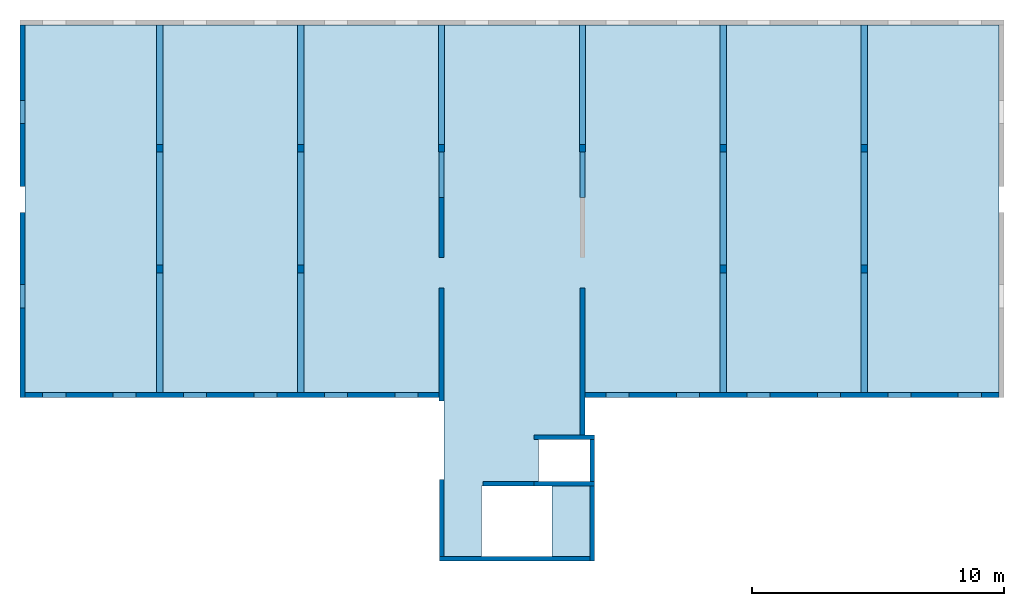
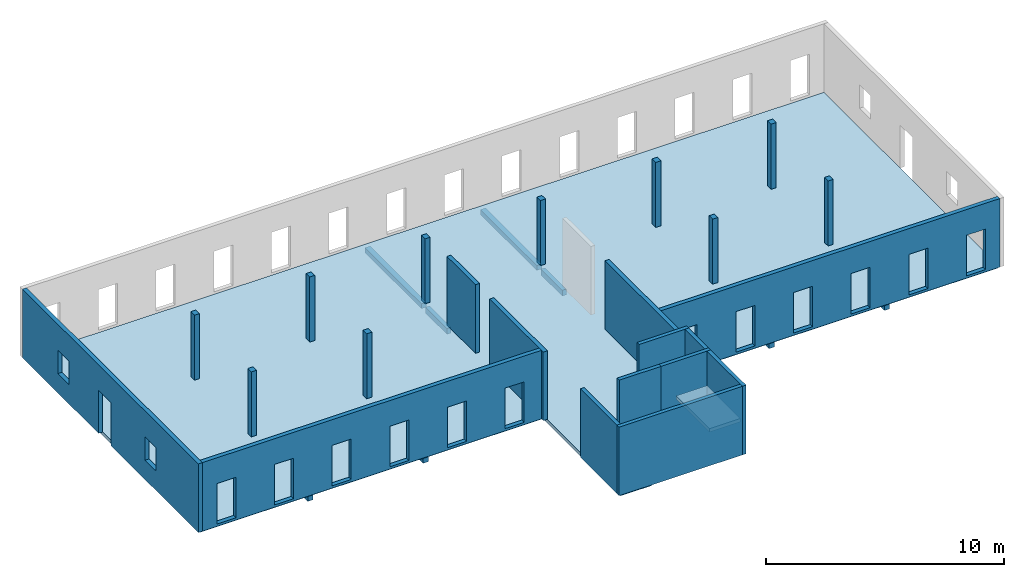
# One storey, part 1 of 2: 13 walls, 10 columns, 8 beams, 2 slabs, 15 openings.
"""IFC2X3 building model written with IfcOpenShell, lengths in metres."""

import ifcopenshell
import ifcopenshell.guid

model = None  # the IFC model being written
_history = None  # IfcOwnerHistory: only IFC2X3 demands one
_inside = {}  # id of a spatial element -> (the spatial element, [elements in it])
_under = {}  # id of a project, library or spatial element -> (it, [spatial elements below it])
_declared = {}  # id of a project -> (the project, [libraries it declares])
_typed = {}  # id of a type object -> (the type object, [elements of that type])
_made_of = {}  # id of a material, layer set ... -> (it, [elements and type objects made of it])


def new_model(schema):
    """Start an empty IFC model of exactly this schema.

    Asked for "IFC4X3", IfcOpenShell would pick the latest addendum, in which some entities
    have other attributes; the version numbers below select the first issue.
    IFC2X3 requires an IfcOwnerHistory on every rooted entity: one is made here for all.
    """
    global model, _history
    if schema == "IFC4X3":
        model = ifcopenshell.file(schema_version=(4, 3, 0, 0))
    else:
        model = ifcopenshell.file(schema=schema)
    _inside.clear()
    _under.clear()
    _declared.clear()
    _typed.clear()
    _made_of.clear()
    _history = None
    if model.schema == "IFC2X3":
        org = make("IfcOrganization", Name="unknown")
        user = make(
            "IfcPersonAndOrganization",
            ThePerson=make("IfcPerson", FamilyName="unknown"),
            TheOrganization=org,
        )
        app = make(
            "IfcApplication",
            ApplicationDeveloper=org,
            Version="unknown",
            ApplicationFullName="unknown",
            ApplicationIdentifier="unknown",
        )
        _history = make(
            "IfcOwnerHistory",
            OwningUser=user,
            OwningApplication=app,
            ChangeAction="ADDED",
            CreationDate=0,
        )
    return model


def make(cls, **values):
    """One entity of the class cls with the attributes given. An attribute that is None is left unset."""
    return model.create_entity(
        cls, **{name: value for name, value in values.items() if value is not None}
    )


def entity(cls, *values):
    """Any entity or typed value of the class cls, its attributes in the order of the schema. None: left unset."""
    e = model.create_entity(cls)
    for i, value in enumerate(values):
        if value is not None:
            e[i] = value
    return e


def rooted(cls, **values):
    """An entity with a GlobalId (a new one), such as an element, a storey or a relation."""
    return make(cls, GlobalId=ifcopenshell.guid.new(), OwnerHistory=_history, **values)


def si_unit(unit_type, name, prefix=None):
    """IfcSIUnit, for example si_unit("LENGTHUNIT", "METRE", prefix="MILLI")."""
    return make("IfcSIUnit", UnitType=unit_type, Prefix=prefix, Name=name)


def converted_unit(unit_type, name, factor, base, dimensions=None, offset=None):
    """IfcConversionBasedUnit, such as the inch: factor (a typed value) times the base unit."""
    return make(
        "IfcConversionBasedUnit"
        if offset is None
        else "IfcConversionBasedUnitWithOffset",
        ConversionOffset=offset,
        Dimensions=None
        if dimensions is None
        else entity("IfcDimensionalExponents", *dimensions),
        UnitType=unit_type,
        Name=name,
        ConversionFactor=make(
            "IfcMeasureWithUnit", ValueComponent=factor, UnitComponent=base
        ),
    )


def derived_unit(unit_type, elements):
    """IfcDerivedUnit: a product of units, each with its exponent."""
    return make(
        "IfcDerivedUnit",
        Elements=[
            make("IfcDerivedUnitElement", Unit=unit, Exponent=power)
            for unit, power in elements
        ],
        UnitType=unit_type,
    )


def assignment(units):
    """IfcUnitAssignment: the units of a project."""
    return None if units is None else make("IfcUnitAssignment", Units=units)


def point(xyz):
    """IfcCartesianPoint."""
    return None if xyz is None else make("IfcCartesianPoint", Coordinates=xyz)


def direction(xyz):
    """IfcDirection."""
    return None if xyz is None else make("IfcDirection", DirectionRatios=xyz)


def frame(location, z_axis=None, x_axis=None):
    """IfcAxis2Placement3D, a coordinate frame: its origin and axes. An axis left out is left unset."""
    return make(
        "IfcAxis2Placement3D",
        Location=point(location),
        Axis=direction(z_axis),
        RefDirection=direction(x_axis),
    )


def frame_2d(location, x_axis=None):
    """IfcAxis2Placement2D, a coordinate frame in the plane: its origin and x axis."""
    return make(
        "IfcAxis2Placement2D", Location=point(location), RefDirection=direction(x_axis)
    )


def origin():
    """The frame at (0, 0, 0) with its axes left unset."""
    return frame((0.0, 0.0, 0.0))


def origin_2d_with_axis():
    """The frame at (0, 0) in the plane with the x axis (1, 0) written out."""
    return frame_2d((0.0, 0.0), x_axis=(1.0, 0.0))


def place(relative_to, where):
    """IfcLocalPlacement: puts the frame where relative to a parent placement (None: the world)."""
    return make(
        "IfcLocalPlacement", PlacementRelTo=relative_to, RelativePlacement=where
    )


def context(
    kind, dimensions, precision=None, world=None, true_north=None, identifier=None
):
    """IfcGeometricRepresentationContext, for example the 3D "Model" context."""
    return make(
        "IfcGeometricRepresentationContext",
        ContextIdentifier=identifier,
        ContextType=kind,
        CoordinateSpaceDimension=dimensions,
        Precision=precision,
        WorldCoordinateSystem=world,
        TrueNorth=true_north,
    )


def subcontext(parent, identifier, kind, view, scale=None):
    """IfcGeometricRepresentationSubContext, for example "Body" below "Model"."""
    return make(
        "IfcGeometricRepresentationSubContext",
        ContextIdentifier=identifier,
        ContextType=kind,
        ParentContext=parent,
        TargetScale=scale,
        TargetView=view,
    )


def project(units=None, contexts=None):
    """IfcProject with its units and contexts."""
    return rooted(
        "IfcProject",
        Name="project",
        RepresentationContexts=contexts,
        UnitsInContext=assignment(units),
    )


def spatial(cls, under=None, at=None, **own):
    """A site, building, storey or space (cls), placed at a placement, below another one or the project."""
    s = rooted(cls, ObjectPlacement=at, **own)
    if under is not None:
        _under.setdefault(under.id(), (under, []))[1].append(s)
    return s


def polyline(points):
    """IfcPolyline through the points."""
    return make("IfcPolyline", Points=[point(p) for p in points])


def profile(cls, at=None, kind="AREA", **sizes):
    """A parametric profile (cls). Its sizes go by their IFC names, for example OverallWidth=200.0."""
    return make(cls, ProfileType=kind, Position=at, **sizes)


def rectangle(**sizes):
    """IfcRectangleProfileDef."""
    return profile("IfcRectangleProfileDef", **sizes)


def outline(outer, holes=None, kind="AREA"):
    """IfcArbitraryClosedProfileDef: a profile drawn as a closed curve; with holes, ...WithVoids."""
    if holes is None:
        return make("IfcArbitraryClosedProfileDef", ProfileType=kind, OuterCurve=outer)
    return make(
        "IfcArbitraryProfileDefWithVoids",
        ProfileType=kind,
        OuterCurve=outer,
        InnerCurves=holes,
    )


def extrude(swept, where, along, depth):
    """IfcExtrudedAreaSolid: the profile swept, set in the frame where, extruded along a direction by depth."""
    return make(
        "IfcExtrudedAreaSolid",
        SweptArea=swept,
        Position=where,
        ExtrudedDirection=direction(along),
        Depth=depth,
    )


def shape(context_of_items, identifier, shape_type, items):
    """IfcShapeRepresentation: the items that make up one representation, for example the "Body"."""
    return make(
        "IfcShapeRepresentation",
        ContextOfItems=context_of_items,
        RepresentationIdentifier=identifier,
        RepresentationType=shape_type,
        Items=items,
    )


def source(mapping_origin, context_of_items, identifier, shape_type, items):
    """IfcRepresentationMap: a shape defined once, which mapped items show again and again."""
    return make(
        "IfcRepresentationMap",
        MappingOrigin=mapping_origin,
        MappedRepresentation=shape(context_of_items, identifier, shape_type, items),
    )


def transform(
    local_origin,
    x_axis=None,
    y_axis=None,
    z_axis=None,
    scale=None,
    scale2=None,
    scale3=None,
    uniform=True,
):
    """IfcCartesianTransformationOperator3D, or its non-uniform kind. x_axis, y_axis, z_axis: its Axis1, 2, 3."""
    if uniform:
        return make(
            "IfcCartesianTransformationOperator3D",
            Axis1=direction(x_axis),
            Axis2=direction(y_axis),
            LocalOrigin=point(local_origin),
            Scale=scale,
            Axis3=direction(z_axis),
        )
    return make(
        "IfcCartesianTransformationOperator3DnonUniform",
        Axis1=direction(x_axis),
        Axis2=direction(y_axis),
        LocalOrigin=point(local_origin),
        Scale=scale,
        Axis3=direction(z_axis),
        Scale2=scale2,
        Scale3=scale3,
    )


def mapped(mapping_source, mapping_target):
    """IfcMappedItem: shows the shape of a source again, moved by a transform."""
    return make(
        "IfcMappedItem", MappingSource=mapping_source, MappingTarget=mapping_target
    )


def material(Name=None, Category=None):
    """IfcMaterial."""
    return make("IfcMaterial", Name=Name, Category=Category)


def layer(
    of_material, thickness, ventilated=None, Name=None, Category=None, Priority=None
):
    """IfcMaterialLayer: one layer of a wall or slab, of a material (None: an air gap)."""
    return make(
        "IfcMaterialLayer",
        Material=of_material,
        LayerThickness=thickness,
        IsVentilated=ventilated,
        Name=Name,
        Category=Category,
        Priority=Priority,
    )


def layer_set(layers, Name=None):
    """IfcMaterialLayerSet."""
    return make("IfcMaterialLayerSet", MaterialLayers=layers, LayerSetName=Name)


def layer_usage(for_layer_set, set_direction, sense, offset, extent=None):
    """IfcMaterialLayerSetUsage: how a layer set lies in its element."""
    return make(
        "IfcMaterialLayerSetUsage",
        ForLayerSet=for_layer_set,
        LayerSetDirection=set_direction,
        DirectionSense=sense,
        OffsetFromReferenceLine=offset,
        ReferenceExtent=extent,
    )


def made_of(thing, what):
    """Note that an element or type object is made of a material, layer set ...; save() writes the relation."""
    if what is not None:
        _made_of.setdefault(what.id(), (what, []))[1].append(thing)
    return thing


def type_object(cls, material=None, **own):
    """A type object (cls), such as IfcWallType, which elements share."""
    return made_of(rooted(cls, **own), material)


def type_shapes(of_type, sources):
    """Give a type object the sources (RepresentationMaps) that its elements show as mapped items."""
    of_type.RepresentationMaps = sources


def element(
    cls,
    number,
    at=None,
    inside=None,
    cuts=None,
    type_object=None,
    material=None,
    context=None,
    identifier="Body",
    shape_type=None,
    held_by="IfcProductDefinitionShape",
    body=None,
    shapes=None,
    **own,
):
    """One element of the class cls, such as IfcWall. Its Tag is "e" and its number.

    at: its placement. inside: the storey or other place that contains it. cuts: it is an
    opening in that element (IfcRelVoidsElement). A single representation is given by context,
    identifier, shape_type and body (its items); several are given by shapes. held_by: the class
    of the entity that holds the representations. save() writes the other relations.
    """
    e = rooted(cls, Tag="e%d" % number, ObjectPlacement=at, **own)
    if body is not None:
        shapes = [shape(context, identifier, shape_type, body)]
    if shapes is not None:
        e.Representation = make(held_by, Representations=shapes)
    if inside is not None:
        _inside.setdefault(inside.id(), (inside, []))[1].append(e)
    if cuts is not None:
        rooted(
            "IfcRelVoidsElement", RelatingBuildingElement=cuts, RelatedOpeningElement=e
        )
    if type_object is not None:
        _typed.setdefault(type_object.id(), (type_object, []))[1].append(e)
    return made_of(e, material)


def aggregate(whole, parts):
    """IfcRelAggregates: a whole, such as a stair, and the parts it consists of."""
    return rooted("IfcRelAggregates", RelatingObject=whole, RelatedObjects=parts)


def save(model, path):
    """Write the relations noted so far, then the file.

    IfcRelAggregates (storeys below a building ...), IfcRelContainedInSpatialStructure (elements
    in a storey), IfcRelDefinesByType, IfcRelAssociatesMaterial and IfcRelDeclares: one each for
    every whole, place, type object, material and project.
    """
    for whole, parts in _under.values():
        aggregate(whole, parts)
    for where, things in _inside.values():
        rooted(
            "IfcRelContainedInSpatialStructure",
            RelatedElements=things,
            RelatingStructure=where,
        )
    for kind, things in _typed.values():
        rooted("IfcRelDefinesByType", RelatedObjects=things, RelatingType=kind)
    for what, things in _made_of.values():
        rooted("IfcRelAssociatesMaterial", RelatedObjects=things, RelatingMaterial=what)
    for by, libraries in _declared.values():
        rooted("IfcRelDeclares", RelatingContext=by, RelatedDefinitions=libraries)
    model.write(path)


model = new_model("IFC2X3")

# Units and contexts
model_context = context("Model", 3, precision=1e-05, world=origin(), true_north=direction((6.12303176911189e-17, 1.0)))
context_of_model = context(None, 3, precision=1e-05, world=origin(), true_north=direction((6.12303176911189e-17, 1.0)))
body_context = subcontext(model_context, "Body", "Model", "MODEL_VIEW")
ifc_project = project(units=[si_unit("LENGTHUNIT", "METRE"), si_unit("AREAUNIT", "SQUARE_METRE"), si_unit("VOLUMEUNIT", "CUBIC_METRE"), converted_unit("PLANEANGLEUNIT", "DEGREE", entity("IfcRatioMeasure", 0.0174532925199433), si_unit("PLANEANGLEUNIT", "RADIAN"), dimensions=[0, 0, 0, 0, 0, 0, 0]), si_unit("MASSUNIT", "GRAM", prefix="KILO"), si_unit("TIMEUNIT", "SECOND"), si_unit("FREQUENCYUNIT", "HERTZ"), si_unit("THERMODYNAMICTEMPERATUREUNIT", "DEGREE_CELSIUS"), derived_unit("THERMALTRANSMITTANCEUNIT", [(si_unit("MASSUNIT", "GRAM", prefix="KILO"), 1), (si_unit("THERMODYNAMICTEMPERATUREUNIT", "KELVIN"), -1), (si_unit("TIMEUNIT", "SECOND"), -3)]), derived_unit("VOLUMETRICFLOWRATEUNIT", [(si_unit("LENGTHUNIT", "METRE"), 3), (si_unit("TIMEUNIT", "SECOND"), -1)]), si_unit("ELECTRICCURRENTUNIT", "AMPERE"), si_unit("ELECTRICVOLTAGEUNIT", "VOLT"), si_unit("POWERUNIT", "WATT"), si_unit("FORCEUNIT", "NEWTON"), si_unit("ILLUMINANCEUNIT", "LUX"), si_unit("LUMINOUSFLUXUNIT", "LUMEN"), si_unit("LUMINOUSINTENSITYUNIT", "CANDELA"), si_unit("PRESSUREUNIT", "PASCAL")], contexts=[model_context, context_of_model])

# Site, building, storey
site_placement = place(None, origin())
site = spatial("IfcSite", under=ifc_project, at=site_placement, Name="Default", CompositionType="ELEMENT")
building_placement = place(site_placement, origin())
building = spatial("IfcBuilding", under=site, at=building_placement, Name="BATIMENT 1", CompositionType="ELEMENT")
storey_placement = place(building_placement, frame((0.0, 0.0, 3.51999999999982)))
storey = spatial("IfcBuildingStorey", under=building, at=storey_placement, Name="Niveau 1", CompositionType="ELEMENT", Elevation=3.51999999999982)

# Columns
ifc_material = material(Name="AEC Béton, C25/30")
column_type_1 = type_object("IfcColumnType", Name="BG 0.25 x 0.30 C25/30", PredefinedType="COLUMN", material=ifc_material)
shared_shape_1 = source(origin(), body_context, "Body", "SweptSolid", [
    extrude(rectangle(XDim=0.249999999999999, YDim=0.3, at=origin_2d_with_axis()), frame((-14.2036530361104, 3.48253761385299, 3.51999999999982), z_axis=(0.0, 0.0, 1.0), x_axis=(-1.0, 0.0, 0.0)), (0.0, 0.0, 1.0), 3.34),
])
type_shapes(column_type_1, [shared_shape_1])
column_1_placement = place(storey_placement, frame((0.0, 0.0, -3.51999999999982)))
element("IfcColumn", 1, at=column_1_placement, inside=storey, type_object=column_type_1, material=ifc_material, Name="Béton - Rectangulaire - Poteau:BG 0.25 x 0.30 C25/30", ObjectType="BG 0.25 x 0.30 C25/30", context=body_context, shape_type="MappedRepresentation", body=[
    mapped(shared_shape_1, transform((0.0, 0.0, 0.0), scale=1.0)),
])
column_type_2 = type_object("IfcColumnType", Name="BG 0.25 x 0.30 C25/30", PredefinedType="COLUMN", material=ifc_material)
shared_shape_2 = source(origin(), body_context, "Body", "SweptSolid", [
    extrude(rectangle(XDim=0.249999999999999, YDim=0.3, at=origin_2d_with_axis()), frame((-8.60365303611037, 3.48253761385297, 3.51999999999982), z_axis=(0.0, 0.0, 1.0), x_axis=(-1.0, 0.0, 0.0)), (0.0, 0.0, 1.0), 3.34),
])
type_shapes(column_type_2, [shared_shape_2])
column_2_placement = place(storey_placement, frame((0.0, 0.0, -3.51999999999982)))
element("IfcColumn", 2, at=column_2_placement, inside=storey, type_object=column_type_2, material=ifc_material, Name="Béton - Rectangulaire - Poteau:BG 0.25 x 0.30 C25/30", ObjectType="BG 0.25 x 0.30 C25/30", context=body_context, shape_type="MappedRepresentation", body=[
    mapped(shared_shape_2, transform((0.0, 0.0, 0.0), scale=1.0)),
])
column_type_3 = type_object("IfcColumnType", Name="BG 0.25 x 0.30 C25/30", PredefinedType="COLUMN", material=ifc_material)
shared_shape_3 = source(origin(), body_context, "Body", "SweptSolid", [
    extrude(rectangle(XDim=0.25, YDim=0.3, at=frame_2d((2.70616862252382e-16, 0.0), x_axis=(1.0, 0.0))), frame((-3.00365303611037, 3.48253761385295, 3.51999999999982), z_axis=(0.0, 0.0, 1.0), x_axis=(-1.0, 0.0, 0.0)), (0.0, 0.0, 1.0), 3.34),
])
type_shapes(column_type_3, [shared_shape_3])
column_3_placement = place(storey_placement, frame((0.0, 0.0, -3.51999999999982)))
element("IfcColumn", 3, at=column_3_placement, inside=storey, type_object=column_type_3, material=ifc_material, Name="Béton - Rectangulaire - Poteau:BG 0.25 x 0.30 C25/30", ObjectType="BG 0.25 x 0.30 C25/30", context=body_context, shape_type="MappedRepresentation", body=[
    mapped(shared_shape_3, transform((0.0, 0.0, 0.0), scale=1.0)),
])
column_type_4 = type_object("IfcColumnType", Name="BG 0.25 x 0.30 C25/30", PredefinedType="COLUMN", material=ifc_material)
shared_shape_4 = source(origin(), body_context, "Body", "SweptSolid", [
    extrude(rectangle(XDim=0.25, YDim=0.3, at=frame_2d((2.70616862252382e-16, -5.41233724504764e-16), x_axis=(1.0, 0.0))), frame((2.59634696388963, 3.48253761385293, 3.51999999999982), z_axis=(0.0, 0.0, 1.0), x_axis=(-1.0, 0.0, 0.0)), (0.0, 0.0, 1.0), 3.34),
])
type_shapes(column_type_4, [shared_shape_4])
column_4_placement = place(storey_placement, frame((0.0, 0.0, -3.51999999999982)))
element("IfcColumn", 4, at=column_4_placement, inside=storey, type_object=column_type_4, material=ifc_material, Name="Béton - Rectangulaire - Poteau:BG 0.25 x 0.30 C25/30", ObjectType="BG 0.25 x 0.30 C25/30", context=body_context, shape_type="MappedRepresentation", body=[
    mapped(shared_shape_4, transform((0.0, 0.0, 0.0), scale=1.0)),
])
column_type_5 = type_object("IfcColumnType", Name="BG 0.25 x 0.30 C25/30", PredefinedType="COLUMN", material=ifc_material)
shared_shape_5 = source(origin(), body_context, "Body", "SweptSolid", [
    extrude(rectangle(XDim=0.249999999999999, YDim=0.3, at=origin_2d_with_axis()), frame((8.19634696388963, 3.48253761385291, 3.51999999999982), z_axis=(0.0, 0.0, 1.0), x_axis=(-1.0, 0.0, 0.0)), (0.0, 0.0, 1.0), 3.34),
])
type_shapes(column_type_5, [shared_shape_5])
column_5_placement = place(storey_placement, frame((0.0, 0.0, -3.51999999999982)))
element("IfcColumn", 5, at=column_5_placement, inside=storey, type_object=column_type_5, material=ifc_material, Name="Béton - Rectangulaire - Poteau:BG 0.25 x 0.30 C25/30", ObjectType="BG 0.25 x 0.30 C25/30", context=body_context, shape_type="MappedRepresentation", body=[
    mapped(shared_shape_5, transform((0.0, 0.0, 0.0), scale=1.0)),
])
column_type_6 = type_object("IfcColumnType", Name="BG 0.25 x 0.30 C25/30", PredefinedType="COLUMN", material=ifc_material)
shared_shape_6 = source(origin(), body_context, "Body", "SweptSolid", [
    extrude(rectangle(XDim=0.249999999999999, YDim=0.3, at=origin_2d_with_axis()), frame((13.7963469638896, 3.4825376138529, 3.51999999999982), z_axis=(0.0, 0.0, 1.0), x_axis=(-1.0, 0.0, 0.0)), (0.0, 0.0, 1.0), 3.34),
])
type_shapes(column_type_6, [shared_shape_6])
column_6_placement = place(storey_placement, frame((0.0, 0.0, -3.51999999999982)))
element("IfcColumn", 6, at=column_6_placement, inside=storey, type_object=column_type_6, material=ifc_material, Name="Béton - Rectangulaire - Poteau:BG 0.25 x 0.30 C25/30", ObjectType="BG 0.25 x 0.30 C25/30", context=body_context, shape_type="MappedRepresentation", body=[
    mapped(shared_shape_6, transform((0.0, 0.0, 0.0), scale=1.0)),
])
column_type_7 = type_object("IfcColumnType", Name="BG 0.25 x 0.30 C25/30", PredefinedType="COLUMN", material=ifc_material)
shared_shape_7 = source(origin(), body_context, "Body", "SweptSolid", [
    extrude(rectangle(XDim=0.249999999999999, YDim=0.3, at=origin_2d_with_axis()), frame((-14.2036530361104, -1.31746238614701, 3.51999999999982), z_axis=(0.0, 0.0, 1.0), x_axis=(-1.0, 0.0, 0.0)), (0.0, 0.0, 1.0), 3.34),
])
type_shapes(column_type_7, [shared_shape_7])
column_7_placement = place(storey_placement, frame((0.0, 0.0, -3.51999999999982)))
element("IfcColumn", 7, at=column_7_placement, inside=storey, type_object=column_type_7, material=ifc_material, Name="Béton - Rectangulaire - Poteau:BG 0.25 x 0.30 C25/30", ObjectType="BG 0.25 x 0.30 C25/30", context=body_context, shape_type="MappedRepresentation", body=[
    mapped(shared_shape_7, transform((0.0, 0.0, 0.0), scale=1.0)),
])
column_type_8 = type_object("IfcColumnType", Name="BG 0.25 x 0.30 C25/30", PredefinedType="COLUMN", material=ifc_material)
shared_shape_8 = source(origin(), body_context, "Body", "SweptSolid", [
    extrude(rectangle(XDim=0.249999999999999, YDim=0.3, at=frame_2d((0.0, 1.38777878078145e-16), x_axis=(1.0, 0.0))), frame((-8.60365303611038, -1.31746238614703, 3.51999999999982), z_axis=(0.0, 0.0, 1.0), x_axis=(-1.0, 0.0, 0.0)), (0.0, 0.0, 1.0), 3.34),
])
type_shapes(column_type_8, [shared_shape_8])
column_8_placement = place(storey_placement, frame((0.0, 0.0, -3.51999999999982)))
element("IfcColumn", 8, at=column_8_placement, inside=storey, type_object=column_type_8, material=ifc_material, Name="Béton - Rectangulaire - Poteau:BG 0.25 x 0.30 C25/30", ObjectType="BG 0.25 x 0.30 C25/30", context=body_context, shape_type="MappedRepresentation", body=[
    mapped(shared_shape_8, transform((0.0, 0.0, 0.0), scale=1.0)),
])
column_type_9 = type_object("IfcColumnType", Name="BG 0.25 x 0.30 C25/30", PredefinedType="COLUMN", material=ifc_material)
shared_shape_9 = source(origin(), body_context, "Body", "SweptSolid", [
    extrude(rectangle(XDim=0.249999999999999, YDim=0.3, at=origin_2d_with_axis()), frame((8.19634696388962, -1.31746238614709, 3.51999999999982), z_axis=(0.0, 0.0, 1.0), x_axis=(-1.0, 0.0, 0.0)), (0.0, 0.0, 1.0), 3.34),
])
type_shapes(column_type_9, [shared_shape_9])
column_9_placement = place(storey_placement, frame((0.0, 0.0, -3.51999999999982)))
element("IfcColumn", 9, at=column_9_placement, inside=storey, type_object=column_type_9, material=ifc_material, Name="Béton - Rectangulaire - Poteau:BG 0.25 x 0.30 C25/30", ObjectType="BG 0.25 x 0.30 C25/30", context=body_context, shape_type="MappedRepresentation", body=[
    mapped(shared_shape_9, transform((0.0, 0.0, 0.0), scale=1.0)),
])
column_type_10 = type_object("IfcColumnType", Name="BG 0.25 x 0.30 C25/30", PredefinedType="COLUMN", material=ifc_material)
shared_shape_10 = source(origin(), body_context, "Body", "SweptSolid", [
    extrude(rectangle(XDim=0.249999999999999, YDim=0.3, at=frame_2d((0.0, 1.38777878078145e-16), x_axis=(1.0, 0.0))), frame((13.7963469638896, -1.3174623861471, 3.51999999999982), z_axis=(0.0, 0.0, 1.0), x_axis=(-1.0, 0.0, 0.0)), (0.0, 0.0, 1.0), 3.34),
])
type_shapes(column_type_10, [shared_shape_10])
column_10_placement = place(storey_placement, frame((0.0, 0.0, -3.51999999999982)))
element("IfcColumn", 10, at=column_10_placement, inside=storey, type_object=column_type_10, material=ifc_material, Name="Béton - Rectangulaire - Poteau:BG 0.25 x 0.30 C25/30", ObjectType="BG 0.25 x 0.30 C25/30", context=body_context, shape_type="MappedRepresentation", body=[
    mapped(shared_shape_10, transform((0.0, 0.0, 0.0), scale=1.0)),
])

# Beams
beam_1_placement = place(storey_placement, frame((-14.2036530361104, -6.31746238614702, 0.0), z_axis=(0.0, 0.0, 1.0), x_axis=(0.0, 1.0, 0.0)))
element("IfcBeam", 11, at=beam_1_placement, inside=storey, material=ifc_material, Name="Béton - Poutre rectangulaire:BG 0.25 x 0.43  C25/30", ObjectType="Béton - Poutre rectangulaire:BG 0.25 x 0.43  C25/30", context=body_context, shape_type="SweptSolid", body=[
    extrude(rectangle(XDim=0.250000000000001, YDim=0.250000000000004, at=frame_2d((2.77555756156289e-16, 0.0), x_axis=(1.0, 0.0))), frame((9.95, 0.0, -0.305000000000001), z_axis=(1.0, 0.0, 0.0), x_axis=(0.0, 0.0, 1.0)), (0.0, 0.0, 1.0), 4.75),
    extrude(rectangle(XDim=0.250000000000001, YDim=0.250000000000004, at=frame_2d((2.77555756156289e-16, 0.0), x_axis=(1.0, 0.0))), frame((0.0999999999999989, 0.0, -0.305000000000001), z_axis=(1.0, 0.0, 0.0), x_axis=(0.0, 0.0, 1.0)), (0.0, 0.0, 1.0), 4.75),
    extrude(rectangle(XDim=0.250000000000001, YDim=0.250000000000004, at=frame_2d((2.77555756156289e-16, 0.0), x_axis=(1.0, 0.0))), frame((5.15000000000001, 0.0, -0.305000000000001), z_axis=(1.0, 0.0, 0.0), x_axis=(0.0, 0.0, 1.0)), (0.0, 0.0, 1.0), 4.5),
])
beam_2_placement = place(storey_placement, frame((-8.60365303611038, -6.31746238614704, 0.0), z_axis=(0.0, 0.0, 1.0), x_axis=(0.0, 1.0, 0.0)))
element("IfcBeam", 12, at=beam_2_placement, inside=storey, material=ifc_material, Name="Béton - Poutre rectangulaire:BG 0.25 x 0.43  C25/30", ObjectType="Béton - Poutre rectangulaire:BG 0.25 x 0.43  C25/30", context=body_context, shape_type="SweptSolid", body=[
    extrude(rectangle(XDim=0.250000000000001, YDim=0.250000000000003, at=frame_2d((2.77555756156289e-16, -5.41233724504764e-16), x_axis=(1.0, 0.0))), frame((9.95, 0.0, -0.305000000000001), z_axis=(1.0, 0.0, 0.0), x_axis=(0.0, 0.0, 1.0)), (0.0, 0.0, 1.0), 4.75),
    extrude(rectangle(XDim=0.250000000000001, YDim=0.250000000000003, at=frame_2d((2.63677968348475e-16, -5.41233724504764e-16), x_axis=(1.0, 0.0))), frame((0.0999999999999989, 0.0, -0.305000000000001), z_axis=(1.0, 0.0, 0.0), x_axis=(0.0, 0.0, 1.0)), (0.0, 0.0, 1.0), 4.75000000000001),
    extrude(rectangle(XDim=0.250000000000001, YDim=0.250000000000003, at=frame_2d((2.77555756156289e-16, 5.41233724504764e-16), x_axis=(1.0, 0.0))), frame((5.15000000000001, 0.0, -0.305000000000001), z_axis=(1.0, 0.0, 0.0), x_axis=(0.0, 0.0, 1.0)), (0.0, 0.0, 1.0), 4.5),
])
beam_3_placement = place(storey_placement, frame((8.19634696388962, -6.31746238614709, 0.0), z_axis=(0.0, 0.0, 1.0), x_axis=(0.0, 1.0, 0.0)))
element("IfcBeam", 13, at=beam_3_placement, inside=storey, material=ifc_material, Name="Béton - Poutre rectangulaire:BG 0.25 x 0.43  C25/30", ObjectType="Béton - Poutre rectangulaire:BG 0.25 x 0.43  C25/30", context=body_context, shape_type="SweptSolid", body=[
    extrude(rectangle(XDim=0.250000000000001, YDim=0.250000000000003, at=frame_2d((2.77555756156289e-16, -5.41233724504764e-16), x_axis=(1.0, 0.0))), frame((9.95, 0.0, -0.305000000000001), z_axis=(1.0, 0.0, 0.0), x_axis=(0.0, 0.0, 1.0)), (0.0, 0.0, 1.0), 4.75),
    extrude(rectangle(XDim=0.250000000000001, YDim=0.250000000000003, at=frame_2d((2.63677968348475e-16, -5.41233724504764e-16), x_axis=(1.0, 0.0))), frame((0.0999999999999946, 0.0, -0.305000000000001), z_axis=(1.0, 0.0, 0.0), x_axis=(0.0, 0.0, 1.0)), (0.0, 0.0, 1.0), 4.75000000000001),
    extrude(rectangle(XDim=0.250000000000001, YDim=0.250000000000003, at=frame_2d((2.77555756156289e-16, 5.41233724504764e-16), x_axis=(1.0, 0.0))), frame((5.15000000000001, 0.0, -0.305000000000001), z_axis=(1.0, 0.0, 0.0), x_axis=(0.0, 0.0, 1.0)), (0.0, 0.0, 1.0), 4.5),
])
beam_4_placement = place(storey_placement, frame((13.7963469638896, -6.31746238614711, 0.0), z_axis=(0.0, 0.0, 1.0), x_axis=(0.0, 1.0, 0.0)))
element("IfcBeam", 14, at=beam_4_placement, inside=storey, material=ifc_material, Name="Béton - Poutre rectangulaire:BG 0.25 x 0.43  C25/30", ObjectType="Béton - Poutre rectangulaire:BG 0.25 x 0.43  C25/30", context=body_context, shape_type="SweptSolid", body=[
    extrude(rectangle(XDim=0.250000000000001, YDim=0.250000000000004, at=frame_2d((2.77555756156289e-16, -2.17187379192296e-15), x_axis=(1.0, 0.0))), frame((9.95, 0.0, -0.305000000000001), z_axis=(1.0, 0.0, 0.0), x_axis=(0.0, 0.0, 1.0)), (0.0, 0.0, 1.0), 4.75),
    extrude(rectangle(XDim=0.250000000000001, YDim=0.250000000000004, at=frame_2d((2.77555756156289e-16, 0.0), x_axis=(1.0, 0.0))), frame((0.0999999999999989, 0.0, -0.305000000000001), z_axis=(1.0, 0.0, 0.0), x_axis=(0.0, 0.0, 1.0)), (0.0, 0.0, 1.0), 4.75000000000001),
    extrude(rectangle(XDim=0.250000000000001, YDim=0.250000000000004, at=frame_2d((2.77555756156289e-16, 0.0), x_axis=(1.0, 0.0))), frame((5.15000000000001, 0.0, -0.305000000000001), z_axis=(1.0, 0.0, 0.0), x_axis=(0.0, 0.0, 1.0)), (0.0, 0.0, 1.0), 4.5),
])
beam_5_placement = place(storey_placement, frame((-3.00365303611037, 3.48253761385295, 0.0), z_axis=(0.0, 0.0, 1.0), x_axis=(0.0, 1.0, 0.0)))
element("IfcBeam", 15, at=beam_5_placement, inside=storey, material=ifc_material, Name="Béton - Poutre rectangulaire:BG 0.25 x 0.43  C25/30", ObjectType="Béton - Poutre rectangulaire:BG 0.25 x 0.43  C25/30", context=body_context, shape_type="SweptSolid", body=[
    extrude(rectangle(XDim=0.250000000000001, YDim=0.250000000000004, at=frame_2d((-2.77555756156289e-16, -8.04911692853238e-16), x_axis=(1.0, 0.0))), frame((0.149999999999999, 0.0, -0.305000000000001), z_axis=(1.0, 0.0, 0.0), x_axis=(0.0, 0.0, -1.0)), (0.0, 0.0, 1.0), 4.75000000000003),
])
beam_6_placement = place(storey_placement, frame((2.59634696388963, 3.48253761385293, 0.0), z_axis=(0.0, 0.0, 1.0), x_axis=(0.0, 1.0, 0.0)))
element("IfcBeam", 16, at=beam_6_placement, inside=storey, material=ifc_material, Name="Béton - Poutre rectangulaire:BG 0.25 x 0.43  C25/30", ObjectType="Béton - Poutre rectangulaire:BG 0.25 x 0.43  C25/30", context=body_context, shape_type="SweptSolid", body=[
    extrude(rectangle(XDim=0.250000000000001, YDim=0.250000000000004, at=frame_2d((-2.77555756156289e-16, -8.04911692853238e-16), x_axis=(1.0, 0.0))), frame((0.150000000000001, 0.0, -0.305000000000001), z_axis=(1.0, 0.0, 0.0), x_axis=(0.0, 0.0, -1.0)), (0.0, 0.0, 1.0), 4.75000000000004),
])
beam_7_placement = place(storey_placement, frame((-3.00365303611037, 3.48253761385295, 0.0), z_axis=(0.0, 0.0, 1.0), x_axis=(0.0, -1.0, 0.0)))
element("IfcBeam", 17, at=beam_7_placement, inside=storey, material=ifc_material, Name="Béton - Poutre rectangulaire:BG 0.20 x 0.48  C25/30", ObjectType="Béton - Poutre rectangulaire:BG 0.20 x 0.48  C25/30", context=body_context, shape_type="SweptSolid", body=[
    extrude(rectangle(XDim=0.300000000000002, YDim=0.200000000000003, at=frame_2d((2.77555756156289e-16, 0.0), x_axis=(1.0, 0.0))), frame((0.149999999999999, 0.0, -0.330000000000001), z_axis=(1.0, 0.0, 0.0), x_axis=(0.0, 0.0, -1.0)), (0.0, 0.0, 1.0), 1.80000000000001),
])
beam_8_placement = place(storey_placement, frame((2.59634696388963, 3.48253761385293, 0.0), z_axis=(0.0, 0.0, 1.0), x_axis=(0.0, -1.0, 0.0)))
element("IfcBeam", 18, at=beam_8_placement, inside=storey, material=ifc_material, Name="Béton - Poutre rectangulaire:BG 0.20 x 0.48  C25/30", ObjectType="Béton - Poutre rectangulaire:BG 0.20 x 0.48  C25/30", context=body_context, shape_type="SweptSolid", body=[
    extrude(rectangle(XDim=0.300000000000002, YDim=0.200000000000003, at=frame_2d((2.77555756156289e-16, 0.0), x_axis=(1.0, 0.0))), frame((0.15, 0.0, -0.330000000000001), z_axis=(1.0, 0.0, 0.0), x_axis=(0.0, 0.0, -1.0)), (0.0, 0.0, 1.0), 1.80000000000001),
])

# Slabs
ifc_layer_1 = layer(ifc_material, 0.18)
ifc_layer_set_1 = layer_set([ifc_layer_1], Name="Sol:BG DALLE BA 0.18 C25/30")
ifc_layer_usage_1 = layer_usage(ifc_layer_set_1, "AXIS3", "POSITIVE", 0.0)
slab_1_placement = place(storey_placement, origin())
element("IfcSlab", 19, at=slab_1_placement, inside=storey, material=ifc_layer_usage_1, Name="Sol:BG DALLE BA 0.18 C25/30", ObjectType="Sol:BG DALLE BA 0.18 C25/30", PredefinedType="FLOOR", context=body_context, shape_type="SweptSolid", body=[
    extrude(outline(polyline([(0.155714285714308, -19.7792857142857), (14.7557142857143, -19.7792857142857), (14.7557142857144, 18.9407142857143), (0.155714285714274, 18.9407142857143), (0.155714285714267, 2.2807142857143), (-1.72428571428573, 2.2807142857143), (-1.72428571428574, 0.635714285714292), (-3.39428571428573, 0.635714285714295), (-3.39428571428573, 2.68071428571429), (-3.57428571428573, 2.68071428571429), (-3.57428571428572, -1.62928571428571), (-6.37428571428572, -1.62928571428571), (-6.37428571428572, -3.12928571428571), (0.155714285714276, -3.12928571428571), (0.155714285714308, -19.7792857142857)])), frame((0.215632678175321, -6.37317667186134, 0.0), z_axis=(0.0, 0.0, -1.0), x_axis=(0.0, 1.0, 0.0)), (0.0, 0.0, 1.0), 0.18),
])
ifc_layer_usage_2 = layer_usage(ifc_layer_set_1, "AXIS3", "POSITIVE", 0.0)
slab_2_placement = place(storey_placement, origin())
element("IfcSlab", 20, at=slab_2_placement, inside=storey, material=ifc_layer_usage_2, Name="Sol:BG DALLE BA 0.18 C25/30", ObjectType="Sol:BG DALLE BA 0.18 C25/30", PredefinedType="FLOOR", context=body_context, shape_type="SweptSolid", body=[
    extrude(rectangle(XDim=2.8, YDim=1.5, at=frame_2d((-1.11022302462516e-15, 1.66533453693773e-16), x_axis=(1.0, 0.0))), frame((2.14634696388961, -11.3474623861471, 1.76000000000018), z_axis=(0.0, 0.0, -1.0), x_axis=(0.0, 1.0, 0.0)), (0.0, 0.0, 1.0), 0.18),
])

# Wall
ifc_layer_2 = layer(ifc_material, 0.2)
ifc_layer_set_2 = layer_set([ifc_layer_2], Name="Mur de base:BG VOILE BA 0.20 C25/30")
ifc_layer_usage_3 = layer_usage(ifc_layer_set_2, "AXIS2", "NEGATIVE", 0.1)
wall_type_1 = type_object("IfcWallType", Name="Mur de base:BG VOILE BA 0.20 C25/30", PredefinedType="STANDARD", material=ifc_layer_set_2)
wall_1_placement = place(storey_placement, frame((2.59634696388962, -7.91746238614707, 0.0), z_axis=(0.0, 0.0, 1.0), x_axis=(0.0, 1.0, 0.0)))
element("IfcWallStandardCase", 21, at=wall_1_placement, inside=storey, type_object=wall_type_1, material=ifc_layer_usage_3, Name="Mur de base:BG VOILE BA 0.20 C25/30", ObjectType="Mur de base:BG VOILE BA 0.20 C25/30", context=body_context, shape_type="SweptSolid", body=[
    extrude(rectangle(XDim=5.85, YDim=0.2, at=frame_2d((2.925, 0.0), x_axis=(-1.0, 0.0))), origin(), (0.0, 0.0, 1.0), 3.51999999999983),
])

# Wall, openings
ifc_layer_usage_4 = layer_usage(ifc_layer_set_2, "AXIS2", "NEGATIVE", 0.1)
wall_2_placement = place(storey_placement, frame((19.1563469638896, -6.31746238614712, 0.0), z_axis=(0.0, 0.0, 1.0), x_axis=(-1.0, 0.0, 0.0)))
wall_2 = element("IfcWallStandardCase", 22, at=wall_2_placement, inside=storey, type_object=wall_type_1, material=ifc_layer_usage_4, Name="Mur de base:BG VOILE BA 0.20 C25/30", ObjectType="Mur de base:BG VOILE BA 0.20 C25/30", context=body_context, shape_type="SweptSolid", body=[
    extrude(rectangle(XDim=16.46, YDim=0.2, at=frame_2d((8.22999999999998, 2.70616862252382e-16), x_axis=(-1.0, 0.0))), origin(), (0.0, 0.0, 1.0), 3.51999999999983),
])
opening_1_placement = place(wall_2_placement, origin())
element("IfcOpeningElement", 23, at=opening_1_placement, cuts=wall_2, Name="Mur de base:BG VOILE BA 0.20 C25/30", ObjectType="Opening", context=body_context, shape_type="SweptSolid", body=[
    extrude(rectangle(XDim=2.08, YDim=0.920000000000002, at=frame_2d((0.0, 5.55111512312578e-16), x_axis=(1.0, 0.0))), frame((12.36, -0.1, 1.15999999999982), z_axis=(0.0, 1.0, 0.0), x_axis=(0.0, 0.0, -1.0)), (0.0, 0.0, 1.0), 0.2),
])
opening_2_placement = place(wall_2_placement, origin())
element("IfcOpeningElement", 24, at=opening_2_placement, cuts=wall_2, Name="Mur de base:BG VOILE BA 0.20 C25/30", ObjectType="Opening", context=body_context, shape_type="SweptSolid", body=[
    extrude(rectangle(XDim=2.08, YDim=0.92, at=frame_2d((0.0, -5.27355936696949e-16), x_axis=(1.0, 0.0))), frame((15.16, -0.1, 1.15999999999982), z_axis=(0.0, 1.0, 0.0), x_axis=(0.0, 0.0, -1.0)), (0.0, 0.0, 1.0), 0.2),
])
opening_3_placement = place(wall_2_placement, origin())
element("IfcOpeningElement", 25, at=opening_3_placement, cuts=wall_2, Name="Mur de base:BG VOILE BA 0.20 C25/30", ObjectType="Opening", context=body_context, shape_type="SweptSolid", body=[
    extrude(rectangle(XDim=2.08, YDim=0.919999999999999, at=origin_2d_with_axis()), frame((9.56000000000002, -0.100000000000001, 1.15999999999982), z_axis=(0.0, 1.0, 0.0), x_axis=(0.0, 0.0, -1.0)), (0.0, 0.0, 1.0), 0.2),
])
opening_4_placement = place(wall_2_placement, origin())
element("IfcOpeningElement", 26, at=opening_4_placement, cuts=wall_2, Name="Mur de base:BG VOILE BA 0.20 C25/30", ObjectType="Opening", context=body_context, shape_type="SweptSolid", body=[
    extrude(rectangle(XDim=2.08, YDim=0.919999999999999, at=origin_2d_with_axis()), frame((6.76000000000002, -0.100000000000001, 1.15999999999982), z_axis=(0.0, 1.0, 0.0), x_axis=(0.0, 0.0, -1.0)), (0.0, 0.0, 1.0), 0.2),
])
opening_5_placement = place(wall_2_placement, origin())
element("IfcOpeningElement", 27, at=opening_5_placement, cuts=wall_2, Name="Mur de base:BG VOILE BA 0.20 C25/30", ObjectType="Opening", context=body_context, shape_type="SweptSolid", body=[
    extrude(rectangle(XDim=2.08, YDim=0.919999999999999, at=origin_2d_with_axis()), frame((3.96000000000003, -0.1, 1.15999999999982), z_axis=(0.0, 1.0, 0.0), x_axis=(0.0, 0.0, -1.0)), (0.0, 0.0, 1.0), 0.2),
])
opening_6_placement = place(wall_2_placement, origin())
element("IfcOpeningElement", 28, at=opening_6_placement, cuts=wall_2, Name="Mur de base:BG VOILE BA 0.20 C25/30", ObjectType="Opening", context=body_context, shape_type="SweptSolid", body=[
    extrude(rectangle(XDim=2.08, YDim=0.919999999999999, at=origin_2d_with_axis()), frame((1.16000000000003, -0.1, 1.15999999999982), z_axis=(0.0, 1.0, 0.0), x_axis=(0.0, 0.0, -1.0)), (0.0, 0.0, 1.0), 0.2),
])

ifc_layer_usage_5 = layer_usage(ifc_layer_set_2, "AXIS2", "NEGATIVE", 0.1)
wall_3_placement = place(storey_placement, frame((-19.6636530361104, 8.38253761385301, 0.0), z_axis=(0.0, 0.0, 1.0), x_axis=(0.0, -1.0, 0.0)))
wall_3 = element("IfcWallStandardCase", 29, at=wall_3_placement, inside=storey, type_object=wall_type_1, material=ifc_layer_usage_5, Name="Mur de base:BG VOILE BA 0.20 C25/30", ObjectType="Mur de base:BG VOILE BA 0.20 C25/30", context=body_context, shape_type="SweptSolid", body=[
    extrude(rectangle(XDim=14.8, YDim=0.199999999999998, at=frame_2d((7.4, 0.0), x_axis=(-1.0, 0.0))), origin(), (0.0, 0.0, 1.0), 3.51999999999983),
])
opening_7_placement = place(wall_3_placement, origin())
element("IfcOpeningElement", 30, at=opening_7_placement, cuts=wall_3, Name="Mur de base:BG VOILE BA 0.20 C25/30", ObjectType="Opening", context=body_context, shape_type="SweptSolid", body=[
    extrude(rectangle(XDim=2.2, YDim=1.05, at=origin_2d_with_axis()), frame((6.93600000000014, -0.100000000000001, 1.09999999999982), z_axis=(0.0, 1.0, 0.0), x_axis=(0.0, 0.0, -1.0)), (0.0, 0.0, 1.0), 0.199999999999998),
])
opening_8_placement = place(wall_3_placement, origin())
element("IfcOpeningElement", 31, at=opening_8_placement, cuts=wall_3, Name="Mur de base:BG VOILE BA 0.20 C25/30", ObjectType="Opening", context=body_context, shape_type="SweptSolid", body=[
    extrude(rectangle(XDim=1.2, YDim=0.919999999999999, at=origin_2d_with_axis()), frame((10.78, -0.100000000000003, 1.59999999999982), z_axis=(0.0, 1.0, 0.0), x_axis=(0.0, 0.0, -1.0)), (0.0, 0.0, 1.0), 0.199999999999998),
])
opening_9_placement = place(wall_3_placement, origin())
element("IfcOpeningElement", 32, at=opening_9_placement, cuts=wall_3, Name="Mur de base:BG VOILE BA 0.20 C25/30", ObjectType="Opening", context=body_context, shape_type="SweptSolid", body=[
    extrude(rectangle(XDim=1.2, YDim=0.92, at=frame_2d((0.0, 2.77555756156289e-16), x_axis=(1.0, 0.0))), frame((3.45600000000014, -0.0999999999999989, 1.59999999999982), z_axis=(0.0, 1.0, 0.0), x_axis=(0.0, 0.0, -1.0)), (0.0, 0.0, 1.0), 0.199999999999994),
])

ifc_layer_usage_6 = layer_usage(ifc_layer_set_2, "AXIS2", "NEGATIVE", 0.1)
wall_4_placement = place(storey_placement, frame((-19.5636530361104, -6.317462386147, 0.0)))
wall_4 = element("IfcWallStandardCase", 33, at=wall_4_placement, inside=storey, type_object=wall_type_1, material=ifc_layer_usage_6, Name="Mur de base:BG VOILE BA 0.20 C25/30", ObjectType="Mur de base:BG VOILE BA 0.20 C25/30", context=body_context, shape_type="SweptSolid", body=[
    extrude(rectangle(XDim=16.46, YDim=0.2, at=frame_2d((8.23000000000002, -3.19189119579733e-16), x_axis=(-1.0, 0.0))), origin(), (0.0, 0.0, 1.0), 3.51999999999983),
])
opening_10_placement = place(wall_4_placement, origin())
element("IfcOpeningElement", 34, at=opening_10_placement, cuts=wall_4, Name="Mur de base:BG VOILE BA 0.20 C25/30", ObjectType="Opening", context=body_context, shape_type="SweptSolid", body=[
    extrude(rectangle(XDim=2.08, YDim=0.919999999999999, at=origin_2d_with_axis()), frame((1.16, -0.0999999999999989, 1.15999999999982), z_axis=(0.0, 1.0, 0.0), x_axis=(0.0, 0.0, -1.0)), (0.0, 0.0, 1.0), 0.2),
])
opening_11_placement = place(wall_4_placement, origin())
element("IfcOpeningElement", 35, at=opening_11_placement, cuts=wall_4, Name="Mur de base:BG VOILE BA 0.20 C25/30", ObjectType="Opening", context=body_context, shape_type="SweptSolid", body=[
    extrude(rectangle(XDim=2.08, YDim=0.919999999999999, at=origin_2d_with_axis()), frame((3.95999999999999, -0.100000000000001, 1.15999999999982), z_axis=(0.0, 1.0, 0.0), x_axis=(0.0, 0.0, -1.0)), (0.0, 0.0, 1.0), 0.2),
])
opening_12_placement = place(wall_4_placement, origin())
element("IfcOpeningElement", 36, at=opening_12_placement, cuts=wall_4, Name="Mur de base:BG VOILE BA 0.20 C25/30", ObjectType="Opening", context=body_context, shape_type="SweptSolid", body=[
    extrude(rectangle(XDim=2.08, YDim=0.919999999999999, at=origin_2d_with_axis()), frame((6.75999999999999, -0.1, 1.15999999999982), z_axis=(0.0, 1.0, 0.0), x_axis=(0.0, 0.0, -1.0)), (0.0, 0.0, 1.0), 0.2),
])
opening_13_placement = place(wall_4_placement, origin())
element("IfcOpeningElement", 37, at=opening_13_placement, cuts=wall_4, Name="Mur de base:BG VOILE BA 0.20 C25/30", ObjectType="Opening", context=body_context, shape_type="SweptSolid", body=[
    extrude(rectangle(XDim=2.08, YDim=0.919999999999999, at=origin_2d_with_axis()), frame((9.55999999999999, -0.1, 1.15999999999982), z_axis=(0.0, 1.0, 0.0), x_axis=(0.0, 0.0, -1.0)), (0.0, 0.0, 1.0), 0.2),
])
opening_14_placement = place(wall_4_placement, origin())
element("IfcOpeningElement", 38, at=opening_14_placement, cuts=wall_4, Name="Mur de base:BG VOILE BA 0.20 C25/30", ObjectType="Opening", context=body_context, shape_type="SweptSolid", body=[
    extrude(rectangle(XDim=2.08, YDim=0.919999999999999, at=origin_2d_with_axis()), frame((12.36, -0.100000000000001, 1.15999999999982), z_axis=(0.0, 1.0, 0.0), x_axis=(0.0, 0.0, -1.0)), (0.0, 0.0, 1.0), 0.2),
])
opening_15_placement = place(wall_4_placement, origin())
element("IfcOpeningElement", 39, at=opening_15_placement, cuts=wall_4, Name="Mur de base:BG VOILE BA 0.20 C25/30", ObjectType="Opening", context=body_context, shape_type="SweptSolid", body=[
    extrude(rectangle(XDim=2.08, YDim=0.919999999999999, at=origin_2d_with_axis()), frame((15.16, -0.1, 1.15999999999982), z_axis=(0.0, 1.0, 0.0), x_axis=(0.0, 0.0, -1.0)), (0.0, 0.0, 1.0), 0.2),
])

# Walls
ifc_layer_usage_7 = layer_usage(ifc_layer_set_2, "AXIS2", "NEGATIVE", 0.1)
wall_5_placement = place(storey_placement, frame((-3.00365303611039, -6.56746238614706, 0.0), z_axis=(0.0, 0.0, 1.0), x_axis=(0.0, 1.0, 0.0)))
element("IfcWallStandardCase", 40, at=wall_5_placement, inside=storey, type_object=wall_type_1, material=ifc_layer_usage_7, Name="Mur de base:BG VOILE BA 0.20 C25/30", ObjectType="Mur de base:BG VOILE BA 0.20 C25/30", context=body_context, shape_type="SweptSolid", body=[
    extrude(rectangle(XDim=4.5, YDim=0.2, at=frame_2d((2.25, 0.0), x_axis=(-1.0, 0.0))), origin(), (0.0, 0.0, 1.0), 3.51999999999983),
])
ifc_layer_usage_8 = layer_usage(ifc_layer_set_2, "AXIS2", "NEGATIVE", 0.1)
wall_6_placement = place(storey_placement, frame((-3.00365303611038, -0.867462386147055, 0.0), z_axis=(0.0, 0.0, 1.0), x_axis=(0.0, 1.0, 0.0)))
element("IfcWallStandardCase", 41, at=wall_6_placement, inside=storey, type_object=wall_type_1, material=ifc_layer_usage_8, Name="Mur de base:BG VOILE BA 0.20 C25/30", ObjectType="Mur de base:BG VOILE BA 0.20 C25/30", context=body_context, shape_type="SweptSolid", body=[
    extrude(rectangle(XDim=2.4, YDim=0.2, at=frame_2d((1.2, 0.0), x_axis=(-1.0, 0.0))), origin(), (0.0, 0.0, 1.0), 3.51999999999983),
])
ifc_layer_3 = layer(ifc_material, 0.18)
ifc_layer_set_3 = layer_set([ifc_layer_3], Name="Mur de base:BG VOILE BA 0.18 C25/30")
ifc_layer_usage_9 = layer_usage(ifc_layer_set_3, "AXIS2", "NEGATIVE", 0.09)
wall_type_2 = type_object("IfcWallType", Name="Mur de base:BG VOILE BA 0.18 C25/30", PredefinedType="STANDARD", material=ifc_layer_set_3)
wall_7_placement = place(storey_placement, frame((0.671346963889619, -8.00746238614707, 0.0)))
element("IfcWallStandardCase", 42, at=wall_7_placement, inside=storey, type_object=wall_type_2, material=ifc_layer_usage_9, Name="Mur de base:BG VOILE BA 0.18 C25/30", ObjectType="Mur de base:BG VOILE BA 0.18 C25/30", context=body_context, shape_type="SweptSolid", body=[
    extrude(rectangle(XDim=2.40499999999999, YDim=0.18, at=frame_2d((1.2025, 9.0205620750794e-17), x_axis=(-1.0, 0.0))), origin(), (0.0, 0.0, 1.0), 3.51999999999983),
])
ifc_layer_usage_10 = layer_usage(ifc_layer_set_3, "AXIS2", "NEGATIVE", 0.09)
wall_8_placement = place(storey_placement, frame((2.98634696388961, -8.09746238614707, 0.0), z_axis=(0.0, 0.0, 1.0), x_axis=(0.0, -1.0, 0.0)))
element("IfcWallStandardCase", 43, at=wall_8_placement, inside=storey, type_object=wall_type_2, material=ifc_layer_usage_10, Name="Mur de base:BG VOILE BA 0.18 C25/30", ObjectType="Mur de base:BG VOILE BA 0.18 C25/30", context=body_context, shape_type="SweptSolid", body=[
    extrude(rectangle(XDim=1.67, YDim=0.18, at=frame_2d((0.835, -4.85722573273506e-17), x_axis=(-1.0, 0.0))), origin(), (0.0, 0.0, 1.0), 3.51999999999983),
])
ifc_layer_usage_11 = layer_usage(ifc_layer_set_3, "AXIS2", "NEGATIVE", 0.09)
wall_9_placement = place(storey_placement, frame((2.89634696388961, -12.8374623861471, 0.0), z_axis=(0.0, 0.0, 1.0), x_axis=(-1.0, 0.0, 0.0)))
element("IfcWallStandardCase", 44, at=wall_9_placement, inside=storey, type_object=wall_type_2, material=ifc_layer_usage_11, Name="Mur de base:BG VOILE BA 0.18 C25/30", ObjectType="Mur de base:BG VOILE BA 0.18 C25/30", context=body_context, shape_type="SweptSolid", body=[
    extrude(rectangle(XDim=5.99, YDim=0.179999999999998, at=frame_2d((2.995, 0.0), x_axis=(-1.0, 0.0))), origin(), (0.0, 0.0, 1.0), 3.51999999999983),
])
ifc_layer_usage_12 = layer_usage(ifc_layer_set_3, "AXIS2", "NEGATIVE", 0.09)
wall_10_placement = place(storey_placement, frame((-3.00365303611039, -12.7474623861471, 0.0), z_axis=(0.0, 0.0, 1.0), x_axis=(0.0, 1.0, 0.0)))
element("IfcWallStandardCase", 45, at=wall_10_placement, inside=storey, type_object=wall_type_2, material=ifc_layer_usage_12, Name="Mur de base:BG VOILE BA 0.18 C25/30", ObjectType="Mur de base:BG VOILE BA 0.18 C25/30", context=body_context, shape_type="SweptSolid", body=[
    extrude(rectangle(XDim=3.07, YDim=0.18, at=frame_2d((1.535, -5.55111512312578e-17), x_axis=(-1.0, 0.0))), origin(), (0.0, 0.0, 1.0), 3.51999999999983),
])
ifc_layer_usage_13 = layer_usage(ifc_layer_set_3, "AXIS2", "NEGATIVE", 0.09)
wall_11_placement = place(storey_placement, frame((3.07634696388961, -9.85746238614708, 0.0), z_axis=(0.0, 0.0, 1.0), x_axis=(-1.0, 0.0, 0.0)))
element("IfcWallStandardCase", 46, at=wall_11_placement, inside=storey, type_object=wall_type_2, material=ifc_layer_usage_13, Name="Mur de base:BG VOILE BA 0.18 C25/30", ObjectType="Mur de base:BG VOILE BA 0.18 C25/30", context=body_context, shape_type="SweptSolid", body=[
    extrude(rectangle(XDim=2.405, YDim=0.179999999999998, at=frame_2d((1.2025, 6.66133814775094e-16), x_axis=(-1.0, 0.0))), origin(), (0.0, 0.0, 1.0), 3.51999999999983),
])
ifc_layer_usage_14 = layer_usage(ifc_layer_set_3, "AXIS2", "NEGATIVE", 0.09)
wall_12_placement = place(storey_placement, frame((2.98634696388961, -9.94746238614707, 0.0), z_axis=(0.0, 0.0, 1.0), x_axis=(0.0, -1.0, 0.0)))
element("IfcWallStandardCase", 47, at=wall_12_placement, inside=storey, type_object=wall_type_2, material=ifc_layer_usage_14, Name="Mur de base:BG VOILE BA 0.18 C25/30", ObjectType="Mur de base:BG VOILE BA 0.18 C25/30", context=body_context, shape_type="SweptSolid", body=[
    extrude(rectangle(XDim=2.98, YDim=0.18, at=frame_2d((1.49, 1.66533453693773e-16), x_axis=(-1.0, 0.0))), origin(), (0.0, 0.0, 1.0), 3.51999999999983),
])
ifc_layer_usage_15 = layer_usage(ifc_layer_set_3, "AXIS2", "NEGATIVE", 0.09)
wall_13_placement = place(storey_placement, frame((0.671346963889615, -9.85746238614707, 0.0), z_axis=(0.0, 0.0, 1.0), x_axis=(-1.0, 0.0, 0.0)))
element("IfcWallStandardCase", 48, at=wall_13_placement, inside=storey, type_object=wall_type_2, material=ifc_layer_usage_15, Name="Mur de base:BG VOILE BA 0.18 C25/30", ObjectType="Mur de base:BG VOILE BA 0.18 C25/30", context=body_context, shape_type="SweptSolid", body=[
    extrude(rectangle(XDim=2.03500000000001, YDim=0.179999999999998, at=frame_2d((1.0175, -1.02695629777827e-15), x_axis=(-1.0, 0.0))), origin(), (0.0, 0.0, 1.0), 3.51999999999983),
])

save(model, "model.ifc")
